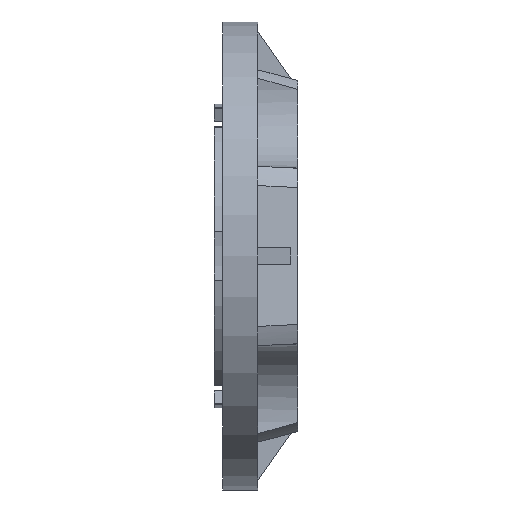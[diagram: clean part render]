
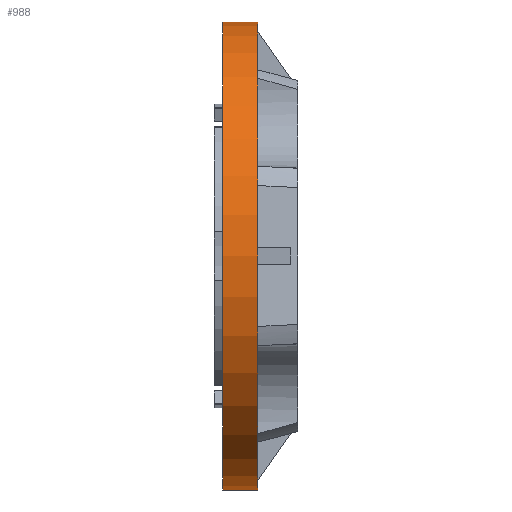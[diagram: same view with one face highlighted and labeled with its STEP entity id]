
A CAD part, front view. The second image highlights one B-rep face of the part: STEP entity #988.
In plain terms, the highlighted cylindrical face has radius 100 mm (diameter 200 mm), a partial arc.
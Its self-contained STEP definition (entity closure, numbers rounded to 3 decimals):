
#988=ADVANCED_FACE('',(#1095),#2804,.T.);
#1095=FACE_OUTER_BOUND('',#1221,.T.);
#1221=EDGE_LOOP('',(#1758,#1759,#1760,#1761));
#1758=ORIENTED_EDGE('',*,*,#2065,.T.);
#1759=ORIENTED_EDGE('',*,*,#1918,.T.);
#1760=ORIENTED_EDGE('',*,*,#1916,.T.);
#1761=ORIENTED_EDGE('',*,*,#2063,.F.);
#1916=EDGE_CURVE('',#2642,#2689,#2142,.T.);
#1918=EDGE_CURVE('',#2621,#2642,#2424,.T.);
#2063=EDGE_CURVE('',#2688,#2689,#2505,.T.);
#2065=EDGE_CURVE('',#2688,#2621,#2209,.T.);
#2142=TRIMMED_CURVE($,#2274,(#4212),(#4213),.T.,.CARTESIAN.);
#2209=TRIMMED_CURVE($,#2341,(#4593),(#4594),.T.,.CARTESIAN.);
#2274=CIRCLE('',#3137,100.);
#2341=CIRCLE('',#3204,100.);
#2424=B_SPLINE_CURVE_WITH_KNOTS('',1,(#4217,#4218),.UNSPECIFIED.,.F.,.F.,
(2,2),(1.5,16.5),.UNSPECIFIED.);
#2505=B_SPLINE_CURVE_WITH_KNOTS('',1,(#4587,#4588),.UNSPECIFIED.,.F.,.F.,
(2,2),(1.5,16.5),.UNSPECIFIED.);
#2621=VERTEX_POINT('',#3850);
#2642=VERTEX_POINT('',#3871);
#2688=VERTEX_POINT('',#3917);
#2689=VERTEX_POINT('',#3918);
#2804=CYLINDRICAL_SURFACE('',#3080,100.);
#3080=AXIS2_PLACEMENT_3D('',#3734,#3317,$);
#3137=AXIS2_PLACEMENT_3D($,#4211,#3418,#3419);
#3204=AXIS2_PLACEMENT_3D($,#4592,#3552,#3553);
#3317=DIRECTION('',(1.,0.,0.));
#3418=DIRECTION('',(-1.,0.,0.));
#3419=DIRECTION('',(0.,0.,-1.));
#3552=DIRECTION('',(1.,0.,0.));
#3553=DIRECTION('',(0.,0.,1.));
#3734=CARTESIAN_POINT('',(24.5,0.,0.));
#3850=CARTESIAN_POINT('',(17.,0.,-100.));
#3871=CARTESIAN_POINT('',(32.,0.,-100.));
#3917=CARTESIAN_POINT('',(17.,0.,100.));
#3918=CARTESIAN_POINT('',(32.,0.,100.));
#4211=CARTESIAN_POINT('',(32.,0.,0.));
#4212=CARTESIAN_POINT('',(32.,0.,-100.));
#4213=CARTESIAN_POINT('',(32.,0.,100.));
#4217=CARTESIAN_POINT('',(17.,0.,-100.));
#4218=CARTESIAN_POINT('',(32.,0.,-100.));
#4587=CARTESIAN_POINT('',(17.,0.,100.));
#4588=CARTESIAN_POINT('',(32.,0.,100.));
#4592=CARTESIAN_POINT('',(17.,0.,0.));
#4593=CARTESIAN_POINT('',(17.,0.,100.));
#4594=CARTESIAN_POINT('',(17.,0.,-100.));
